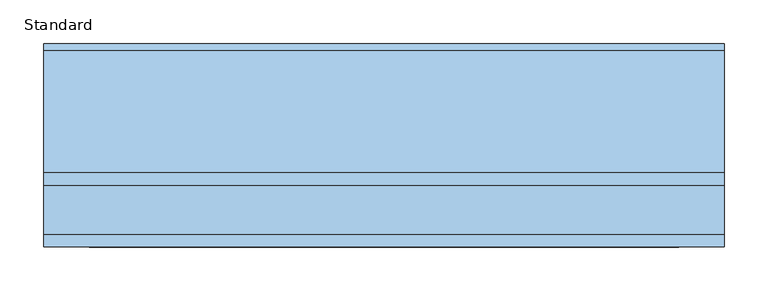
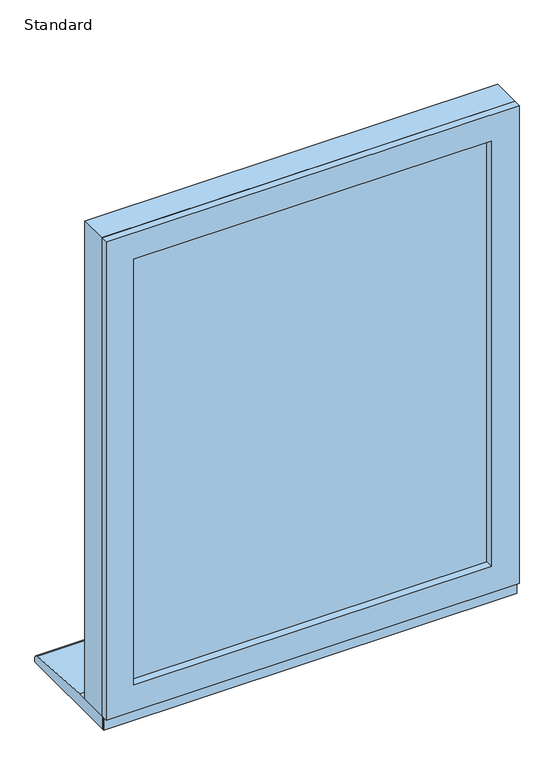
"""IFC4 building model written with IfcOpenShell, lengths in millimetres: window geometry, SMARTS_Alitherm600 : Standard."""

from ifc_helpers import new_model, si_unit, point, frame, frame_2d, origin, place, context, project, spatial, polyline, circle_curve, trimmed, segment, composite_curve, outline, extrude, faceted_brep, source, transform, mapped, element, save


def standard_c212a0ed(model_context):
    return source(origin(), model_context, "Body", "SolidModel", [
        extrude(outline(polyline([(1590.0, 390.0), (1590.0, -390.0), (635.0, -390.0), (635.0, 390.0), (1590.0, 390.0)]), holes=[polyline([(670.85, 354.15), (670.85, -354.15), (1554.15, -354.15), (1554.15, 354.15), (670.85, 354.15)])]), frame((0.0, 47.2798427, 0.0), z_axis=(0.0, 1.0, 0.0), x_axis=(0.0, 0.0, 1.0)), (0.0, 0.0, 1.0), 55.5500006),
        extrude(outline(polyline([(1590.0, 390.0), (1590.0, -390.0), (635.0, -390.0), (635.0, 390.0), (1590.0, 390.0)]), holes=[polyline([(687.35, 337.65), (687.35, -337.65), (1537.65, -337.65), (1537.65, 337.65), (687.35, 337.65)])]), frame((0.0, 32.8298432, 0.0), z_axis=(0.0, 1.0, 0.0), x_axis=(0.0, 0.0, 1.0)), (0.0, 0.0, 1.0), 14.4499994),
        extrude(outline(polyline([(-352.6, 77.7798432), (352.6, 77.7798432), (352.6, 73.7798432), (-352.6, 73.7798432), (-352.6, 77.7798432)])), frame((0.0, 0.0, 672.4), z_axis=(0.0, 0.0, 1.0), x_axis=(1.0, 0.0, 0.0)), (0.0, 0.0, 1.0), 880.2),
        extrude(outline(polyline([(-352.6, 57.7798432), (352.6, 57.7798432), (352.6, 53.7798432), (-352.6, 53.7798432), (-352.6, 57.7798432)])), frame((0.0, 0.0, 672.4), z_axis=(0.0, 0.0, 1.0), x_axis=(1.0, 0.0, 0.0)), (0.0, 0.0, 1.0), 880.2),
        extrude(outline(polyline([(1552.6, -352.6), (672.4, -352.6), (672.4, 352.6), (1552.6, 352.6), (1552.6, -352.6)]), holes=[polyline([(1542.6, 342.6), (682.4, 342.6), (682.4, -342.6), (1542.6, -342.6), (1542.6, 342.6)])]), frame((0.0, 57.7798432, 0.0), z_axis=(0.0, 1.0, 0.0), x_axis=(0.0, 0.0, 1.0)), (0.0, 0.0, 1.0), 16.0),
        faceted_brep([(-349.4160653, 102.7798432, 1549.4160653), (-337.2339746, 81.6798432, 1537.2339746), (-337.2339746, 81.6798432, 687.7660254), (-349.4160653, 102.7798432, 675.5839347), (337.2339746, 81.6798432, 687.7660254), (349.4160653, 102.7798432, 675.5839347), (337.2339746, 81.6798432, 1537.2339746), (349.4160653, 102.7798432, 1549.4160653), (354.1, 81.6798432, 1554.1), (354.1, 102.7798432, 1554.1), (-354.1, 102.7798432, 1554.1), (-354.1, 81.6798432, 1554.1), (-354.1, 102.7798432, 670.9), (-354.1, 81.6798432, 670.9), (354.1, 102.7798432, 670.9), (354.1, 81.6798432, 670.9)], [[[0, 1, 2, 3]], [[3, 2, 4, 5]], [[5, 4, 6, 7]], [[7, 6, 1, 0]], [[8, 9, 10, 11]], [[11, 10, 12, 13]], [[13, 12, 14, 15]], [[9, 14, 12, 10], [0, 3, 5, 7]], [[15, 14, 9, 8]], [[11, 13, 15, 8], [6, 4, 2, 1]]]),
        extrude(outline(polyline([(390.0, 43.2798432), (390.0, 40.7798432), (-390.0, 40.7798432), (-390.0, 43.2798432), (390.0, 43.2798432)])), frame((0.0, 0.0, 610.0), z_axis=(0.0, 0.0, 1.0), x_axis=(1.0, 0.0, 0.0)), (0.0, 0.0, 1.0), 31.0),
        extrude(outline(composite_curve([segment(polyline([(265.7798432, 610.0), (43.2798432, 610.0), (43.2798432, 635.0), (118.7798432, 635.0), (258.4770891, 625.9276664)]), True, "CONTINUOUS"), segment(trimmed(circle_curve(frame_2d((257.7798432, 617.9581088)), 8.0), [point((258.4770891, 625.9276664))], [point((265.7798432, 617.9581088))], False, "CARTESIAN"), True, "CONTINUOUS"), segment(polyline([(265.7798432, 617.9581088), (265.7798432, 610.0)]), True, "CONTINUOUS")], self_intersect=False)), frame((-390.0, 0.0, 0.0), z_axis=(1.0, 0.0, 0.0), x_axis=(0.0, 1.0, 0.0)), (0.0, 0.0, 1.0), 780.0),
    ])


if __name__ == "__main__":
    model = new_model("IFC4")
    model_context = context("Model", 3, world=origin())
    ifc_project = project(units=[si_unit("LENGTHUNIT", "METRE", prefix="MILLI")], contexts=[model_context])
    site = spatial("IfcSite", under=ifc_project)
    building = spatial("IfcBuilding", under=site)
    placement = place(None, origin())
    standard_shape = standard_c212a0ed(model_context)
    element("IfcWindow", 1, ObjectType="SMARTS_Alitherm600 : Standard", at=placement, inside=building, context=model_context, shape_type="MappedRepresentation", body=[
        mapped(standard_shape, transform((0.0, 0.0, 0.0), x_axis=(1.0, 0.0, 0.0), y_axis=(0.0, 1.0, 0.0), z_axis=(0.0, 0.0, 1.0))),
    ])
    save(model, "model.ifc")
